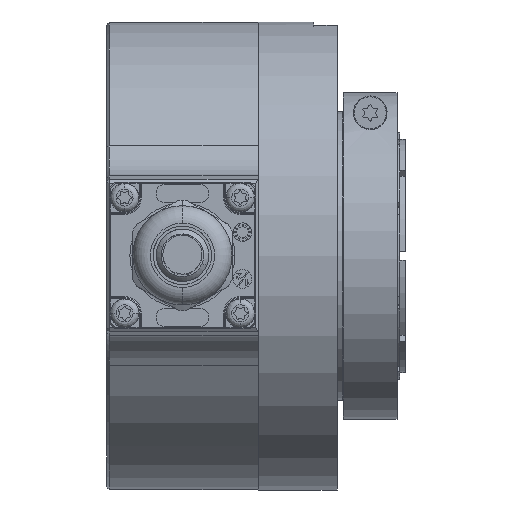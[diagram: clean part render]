
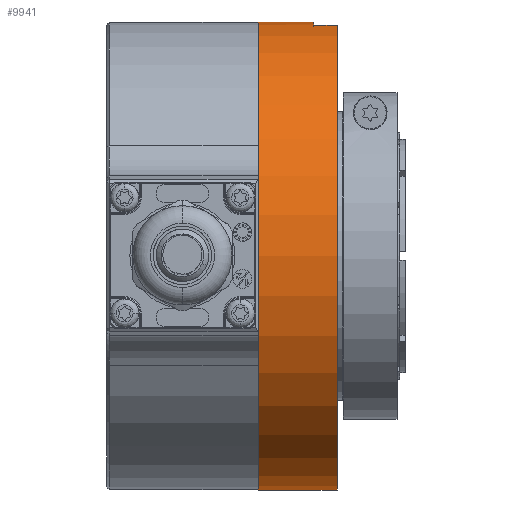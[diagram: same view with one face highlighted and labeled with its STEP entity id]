
A CAD part, top view. The second image highlights one B-rep face of the part: STEP entity #9941.
In plain terms, the highlighted cylindrical face has radius 40.075 mm (diameter 80.15 mm), a partial arc.
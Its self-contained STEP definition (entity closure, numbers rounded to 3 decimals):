
#143 = DIRECTION ( 'NONE',  ( -1., 0., 0. ) ) ;
#257 = CARTESIAN_POINT ( 'NONE',  ( 0., -40.075, 0. ) ) ;
#292 = EDGE_CURVE ( 'NONE', #1860, #15270, #17809, .T. ) ;
#312 = VECTOR ( 'NONE', #16962, 1000. ) ;
#333 = ORIENTED_EDGE ( 'NONE', *, *, #11042, .T. ) ;
#682 = AXIS2_PLACEMENT_3D ( 'NONE', #13087, #21978, #20310 ) ;
#1860 = VERTEX_POINT ( 'NONE', #15378 ) ;
#3079 = EDGE_CURVE ( 'NONE', #15270, #9115, #11959, .T. ) ;
#3563 = CARTESIAN_POINT ( 'NONE',  ( 13.5, -40.075, 0. ) ) ;
#3958 = DIRECTION ( 'NONE',  ( -1., 0., 0. ) ) ;
#5265 = ORIENTED_EDGE ( 'NONE', *, *, #10529, .T. ) ;
#6534 = VERTEX_POINT ( 'NONE', #14389 ) ;
#7390 = DIRECTION ( 'NONE',  ( 0., 1., 0. ) ) ;
#7805 = ORIENTED_EDGE ( 'NONE', *, *, #22327, .F. ) ;
#8114 = DIRECTION ( 'NONE',  ( -1., 0., 0. ) ) ;
#8750 = FACE_OUTER_BOUND ( 'NONE', #15652, .T. ) ;
#9087 = EDGE_CURVE ( 'NONE', #21953, #9115, #17800, .T. ) ;
#9115 = VERTEX_POINT ( 'NONE', #11449 ) ;
#9704 = ORIENTED_EDGE ( 'NONE', *, *, #3079, .T. ) ;
#9797 = CIRCLE ( 'NONE', #682, 40.075 ) ;
#9901 = CARTESIAN_POINT ( 'NONE',  ( 0., 0., 0. ) ) ;
#9941 = ADVANCED_FACE ( 'NONE', ( #8750 ), #23417, .T. ) ;
#10178 = DIRECTION ( 'NONE',  ( -1., 0., 0. ) ) ;
#10529 = EDGE_CURVE ( 'NONE', #17556, #6534, #9797, .T. ) ;
#10977 = LINE ( 'NONE', #12992, #12488 ) ;
#11042 = EDGE_CURVE ( 'NONE', #6534, #1860, #16491, .T. ) ;
#11449 = CARTESIAN_POINT ( 'NONE',  ( 0., 40.075, 0. ) ) ;
#11907 = ORIENTED_EDGE ( 'NONE', *, *, #9087, .F. ) ;
#11959 = LINE ( 'NONE', #19200, #20758 ) ;
#12488 = VECTOR ( 'NONE', #3958, 1000. ) ;
#12661 = DIRECTION ( 'NONE',  ( -1., 0., 0. ) ) ;
#12886 = AXIS2_PLACEMENT_3D ( 'NONE', #22085, #143, #7390 ) ;
#12992 = CARTESIAN_POINT ( 'NONE',  ( -12.775, -40.075, 0. ) ) ;
#13087 = CARTESIAN_POINT ( 'NONE',  ( 13.5, 0., 0. ) ) ;
#14389 = CARTESIAN_POINT ( 'NONE',  ( 13.5, 39.468, 6.95 ) ) ;
#15270 = VERTEX_POINT ( 'NONE', #17542 ) ;
#15378 = CARTESIAN_POINT ( 'NONE',  ( 9.5, 39.468, 6.95 ) ) ;
#15652 = EDGE_LOOP ( 'NONE', ( #7805, #5265, #333, #23215, #9704, #11907 ) ) ;
#16491 = LINE ( 'NONE', #20180, #312 ) ;
#16962 = DIRECTION ( 'NONE',  ( -1., 0., 0. ) ) ;
#17017 = DIRECTION ( 'NONE',  ( 0., 1., 0. ) ) ;
#17542 = CARTESIAN_POINT ( 'NONE',  ( 9.5, 40.075, 0. ) ) ;
#17556 = VERTEX_POINT ( 'NONE', #3563 ) ;
#17800 = CIRCLE ( 'NONE', #23068, 40.075 ) ;
#17809 = CIRCLE ( 'NONE', #12886, 40.075 ) ;
#19200 = CARTESIAN_POINT ( 'NONE',  ( -12.775, 40.075, 0. ) ) ;
#19289 = AXIS2_PLACEMENT_3D ( 'NONE', #21304, #12661, #21191 ) ;
#20180 = CARTESIAN_POINT ( 'NONE',  ( -12.775, 39.468, 6.95 ) ) ;
#20310 = DIRECTION ( 'NONE',  ( 0., 1., 0. ) ) ;
#20758 = VECTOR ( 'NONE', #10178, 1000. ) ;
#21191 = DIRECTION ( 'NONE',  ( 0., 1., 0. ) ) ;
#21304 = CARTESIAN_POINT ( 'NONE',  ( -12.775, 0., 0. ) ) ;
#21953 = VERTEX_POINT ( 'NONE', #257 ) ;
#21978 = DIRECTION ( 'NONE',  ( -1., 0., 0. ) ) ;
#22085 = CARTESIAN_POINT ( 'NONE',  ( 9.5, 0., 0. ) ) ;
#22327 = EDGE_CURVE ( 'NONE', #17556, #21953, #10977, .T. ) ;
#23068 = AXIS2_PLACEMENT_3D ( 'NONE', #9901, #8114, #17017 ) ;
#23215 = ORIENTED_EDGE ( 'NONE', *, *, #292, .T. ) ;
#23417 = CYLINDRICAL_SURFACE ( 'NONE', #19289, 40.075 ) ;
